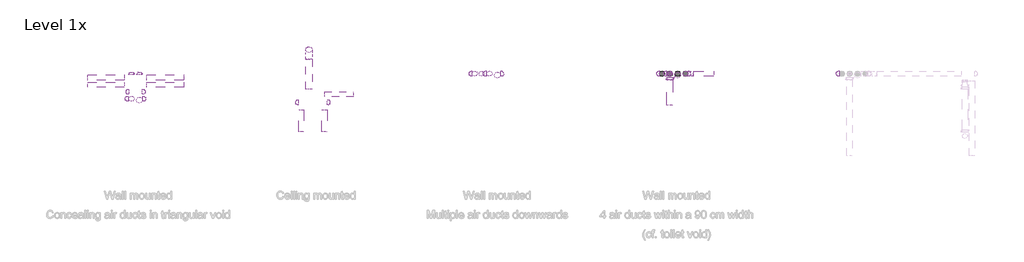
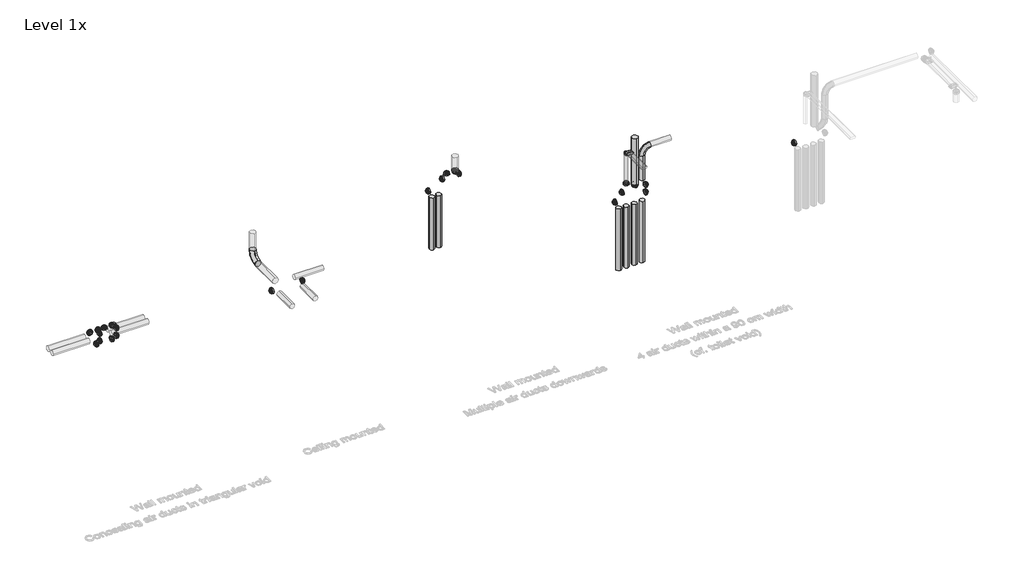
# One storey, part 1 of 7: 29 duct fittings, 21 duct segments, 2 dampers.
"""IFC4 building model written with IfcOpenShell, lengths in millimetres."""

from ifc_helpers import new_model, si_unit, point, frame, frame_2d, origin, place, context, project, spatial, polyline, circle_curve, trimmed, segment, composite_curve, outline, extrude, transform, mapped, element, save
from components import damper_135x55_quick_bracket_1c072f0f, duct_fitting_cf8d5976, duct_fitting_135x55_flat_15a27078, duct_fitting_80_1f0880ae, duct_fitting_80_125_7c03a684, duct_fitting_80_125_58550554, m_round_elbow_1_5_d_eb77d9a7, m_round_elbow_1_5_d_730bacfd

model = new_model("IFC4")

# Units and contexts
model_context = context("Model", 3, world=origin())
ifc_project = project(units=[si_unit("LENGTHUNIT", "METRE", prefix="MILLI")], contexts=[model_context])

# Site, building, storey
site = spatial("IfcSite", under=ifc_project)
building = spatial("IfcBuilding", under=site)
storey = spatial("IfcBuildingStorey", under=building, Name="Level 1x", Elevation=0.0)

# Dampers
placement = place(None, origin())
damper_135x55_quick_bracket_shape = damper_135x55_quick_bracket_1c072f0f(model_context)
element("IfcDamper", 1, ObjectType="VE_Bracket_MEPcontent_Renson_Easyflex_Quick_BE-EN_CP Shared : 135x55 Quick Bracket", at=placement, inside=storey, context=model_context, shape_type="MappedRepresentation", body=[
    mapped(damper_135x55_quick_bracket_shape, transform((-2232.0340432, 3197.2435118, 2663.45), x_axis=(1.0, 0.0, 0.0), y_axis=(0.0, 1.0, 0.0), z_axis=(0.0, 0.0, 1.0))),
])
element("IfcDamper", 2, ObjectType="VE_Bracket_MEPcontent_Renson_Easyflex_Quick_BE-EN_CP Shared : 135x55 Quick Bracket", at=placement, inside=storey, context=model_context, shape_type="MappedRepresentation", body=[
    mapped(damper_135x55_quick_bracket_shape, transform((-2232.0340432, 3197.2435118, 2603.05), x_axis=(-1.0, 0.0, 0.0), y_axis=(0.0, 1.0, 0.0), z_axis=(0.0, 0.0, -1.0))),
])

# Duct fittings
duct_fitting_shape = duct_fitting_cf8d5976(model_context)
element("IfcDuctFitting", 3, ObjectType="Renson_Healthbox 3_Reducer_Round_Exhaust Adapter 125-150 : 125-150", at=placement, inside=storey, context=model_context, shape_type="MappedRepresentation", body=[
    mapped(duct_fitting_shape, transform((-2043.0340432, 3282.2435118, 1680.0), x_axis=(0.0, 0.0, 1.000000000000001), y_axis=(-1.0000000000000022, 0.0, 0.0), z_axis=(0.0, -1.000000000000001, 0.0))),
])
element("IfcDuctFitting", 4, ObjectType="Renson_Healthbox 3_Reducer_Round_Exhaust Adapter 125-150 : 125-150", at=placement, inside=storey, context=model_context, shape_type="MappedRepresentation", body=[
    mapped(duct_fitting_shape, transform((-6363.9079005, 3282.2435118, 3534.2083182), x_axis=(0.0, 0.0, 1.000000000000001), y_axis=(-1.0000000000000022, 0.0, 0.0), z_axis=(0.0, -1.000000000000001, 0.0))),
])
element("IfcDuctFitting", 5, ObjectType="Renson_Healthbox 3_Reducer_Round_Exhaust Adapter 125-150 : 125-150", at=placement, inside=storey, context=model_context, shape_type="MappedRepresentation", body=[
    mapped(duct_fitting_shape, transform((-14940.8881115, 2682.2435118, 2973.7209715), x_axis=(0.0, 0.0, 1.000000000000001), y_axis=(-1.0000000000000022, 0.0, 0.0), z_axis=(0.0, -1.000000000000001, 0.0))),
])
duct_fitting_135x55_flat_shape = duct_fitting_135x55_flat_15a27078(model_context)
element("IfcDuctFitting", 6, ObjectType="VE_Coupling_Oval_MEPcontent_Renson_Easyflex_Flat_BE-EN_CP Shared : 135x55 Flat", at=placement, inside=storey, context=model_context, shape_type="MappedRepresentation", body=[
    mapped(duct_fitting_135x55_flat_shape, transform((-2232.0340432, 3197.2435118, 2633.25), x_axis=(0.0, 1.0, 0.0), y_axis=(-1.0, 0.0, 0.0), z_axis=(0.0, 0.0, 1.0))),
])
duct_fitting_80_shape = duct_fitting_80_1f0880ae(model_context)
element("IfcDuctFitting", 7, ObjectType="VE_Coupling_Round_MEPcontent_Renson_Easyflex_BE-EN_CP Shared : 80", at=placement, inside=storey, context=model_context, shape_type="MappedRepresentation", body=[
    mapped(duct_fitting_80_shape, transform((-2232.0340432, 3317.2435118, 2553.25), x_axis=(0.0, 0.0, -1.000000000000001), y_axis=(1.0000000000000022, 0.0, 0.0), z_axis=(0.0, -1.000000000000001, 0.0))),
])
duct_fitting_80_125_shape = duct_fitting_80_125_7c03a684(model_context)
element("IfcDuctFitting", 8, ObjectType="Renson_Healthbox 3_Reducer_Round_Adapter 80-125 : 80-125", at=placement, inside=storey, context=model_context, shape_type="MappedRepresentation", body=[
    mapped(duct_fitting_80_125_shape, transform((-2314.0340432, 3317.2435118, 1597.0), x_axis=(-1.0, 0.0, 0.0), y_axis=(0.0, 0.0, -1.0), z_axis=(0.0, -1.0, 0.0))),
])
element("IfcDuctFitting", 9, ObjectType="Renson_Healthbox 3_Reducer_Round_Adapter 80-125 : 80-125", at=placement, inside=storey, context=model_context, shape_type="MappedRepresentation", body=[
    mapped(duct_fitting_80_125_shape, transform((-1790.6610432, 3317.2435118, 1407.0), x_axis=(1.0000000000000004, 0.0, 0.0), y_axis=(0.0, 0.0, 1.0000000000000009), z_axis=(0.0, -1.0000000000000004, 0.0))),
])
element("IfcDuctFitting", 10, ObjectType="Renson_Healthbox 3_Reducer_Round_Adapter 80-125 : 80-125", at=placement, inside=storey, context=model_context, shape_type="MappedRepresentation", body=[
    mapped(duct_fitting_80_125_shape, transform((-2482.9070432, 3317.2435118, 1407.0), x_axis=(-1.0, 0.0, 0.0), y_axis=(0.0, 0.0, -1.0), z_axis=(0.0, -1.0, 0.0))),
])
element("IfcDuctFitting", 11, ObjectType="Renson_Healthbox 3_Reducer_Round_Adapter 80-125 : 80-125", at=placement, inside=storey, context=model_context, shape_type="MappedRepresentation", body=[
    mapped(duct_fitting_80_125_shape, transform((-1791.5177485, 3317.2435118, 1597.0), x_axis=(1.0, 0.0, 0.0), y_axis=(0.0, 0.0, 1.0), z_axis=(0.0, -1.0, 0.0))),
])
element("IfcDuctFitting", 12, ObjectType="Renson_Healthbox 3_Reducer_Round_Adapter 80-125 : 80-125", at=placement, inside=storey, context=model_context, shape_type="MappedRepresentation", body=[
    mapped(duct_fitting_80_125_shape, transform((-2232.0340432, 3317.2435118, 1767.0), x_axis=(0.0, 0.0, 1.0), y_axis=(-1.0, 0.0, 0.0), z_axis=(0.0, -1.0, 0.0))),
])
element("IfcDuctFitting", 13, ObjectType="Renson_Healthbox 3_Reducer_Round_Adapter 80-125 : 80-125", at=placement, inside=storey, context=model_context, shape_type="MappedRepresentation", body=[
    mapped(duct_fitting_80_125_shape, transform((-6634.9079005, 3317.2435118, 3451.2083182), x_axis=(-1.0, 0.0, 0.0), y_axis=(0.0, 0.0, -1.0), z_axis=(0.0, -1.0, 0.0))),
])
element("IfcDuctFitting", 14, ObjectType="Renson_Healthbox 3_Reducer_Round_Adapter 80-125 : 80-125", at=placement, inside=storey, context=model_context, shape_type="MappedRepresentation", body=[
    mapped(duct_fitting_80_125_shape, transform((-6552.9079005, 3317.2435118, 3533.2083182), x_axis=(0.0, 0.0, 1.0), y_axis=(-1.0, 0.0, 0.0), z_axis=(0.0, -1.0, 0.0))),
])
element("IfcDuctFitting", 15, ObjectType="Renson_Healthbox 3_Reducer_Round_Adapter 80-125 : 80-125", at=placement, inside=storey, context=model_context, shape_type="MappedRepresentation", body=[
    mapped(duct_fitting_80_125_shape, transform((-11130.5745462, 2628.8779926, 2596.7), x_axis=(-1.0, 0.0, 0.0), y_axis=(0.0, 1.0, 0.0), z_axis=(0.0, 0.0, -1.0))),
])
element("IfcDuctFitting", 16, ObjectType="Renson_Healthbox 3_Reducer_Round_Adapter 80-125 : 80-125", at=placement, inside=storey, context=model_context, shape_type="MappedRepresentation", body=[
    mapped(duct_fitting_80_125_shape, transform((-6280.9079005, 3317.2435118, 3451.2083182), x_axis=(1.0, 0.0, 0.0), y_axis=(0.0, 0.0, 1.0), z_axis=(0.0, -1.0, 0.0))),
])
element("IfcDuctFitting", 17, ObjectType="Renson_Healthbox 3_Reducer_Round_Adapter 80-125 : 80-125", at=placement, inside=storey, context=model_context, shape_type="MappedRepresentation", body=[
    mapped(duct_fitting_80_125_shape, transform((-6972.49221, 3317.2435118, 3261.3063466), x_axis=(-1.0, 0.0, 0.0), y_axis=(0.0, 0.0, -1.0), z_axis=(0.0, -1.0, 0.0))),
])
element("IfcDuctFitting", 18, ObjectType="Renson_Healthbox 3_Reducer_Round_Adapter 80-125 : 80-125", at=placement, inside=storey, context=model_context, shape_type="MappedRepresentation", body=[
    mapped(duct_fitting_80_125_shape, transform((-10440.016366, 2629.8779926, 2596.7), x_axis=(1.0, 0.0, 0.0), y_axis=(0.0, -1.0, 0.0), z_axis=(0.0, 0.0, -1.0))),
])
element("IfcDuctFitting", 19, ObjectType="Renson_Healthbox 3_Reducer_Round_Adapter 80-125 : 80-125", at=placement, inside=storey, context=model_context, shape_type="MappedRepresentation", body=[
    mapped(duct_fitting_80_125_shape, transform((1827.0929568, 3317.2435118, 1407.0), x_axis=(-1.0, 0.0, 0.0), y_axis=(0.0, 0.0, -1.0), z_axis=(0.0, -1.0, 0.0))),
])
element("IfcDuctFitting", 20, ObjectType="Renson_Healthbox 3_Reducer_Round_Adapter 80-125 : 80-125", at=placement, inside=storey, context=model_context, shape_type="MappedRepresentation", body=[
    mapped(duct_fitting_80_125_shape, transform((-15211.8881115, 2717.2435118, 2890.7209715), x_axis=(-1.0, 0.0, 0.0), y_axis=(0.0, 0.0, -1.0), z_axis=(0.0, -1.0, 0.0))),
])
element("IfcDuctFitting", 21, ObjectType="Renson_Healthbox 3_Reducer_Round_Adapter 80-125 : 80-125", at=placement, inside=storey, context=model_context, shape_type="MappedRepresentation", body=[
    mapped(duct_fitting_80_125_shape, transform((-15129.8881115, 2717.2435118, 2972.7209715), x_axis=(0.0, 0.0, 1.0), y_axis=(-1.0, 0.0, 0.0), z_axis=(0.0, -1.0, 0.0))),
])
element("IfcDuctFitting", 22, ObjectType="Renson_Healthbox 3_Reducer_Round_Adapter 80-125 : 80-125", at=placement, inside=storey, context=model_context, shape_type="MappedRepresentation", body=[
    mapped(duct_fitting_80_125_shape, transform((-14857.8881115, 2717.2435118, 2890.7209715), x_axis=(1.0, 0.0, 0.0), y_axis=(0.0, 0.0, 1.0), z_axis=(0.0, -1.0, 0.0))),
])
element("IfcDuctFitting", 23, ObjectType="Renson_Healthbox 3_Reducer_Round_Adapter 80-125 : 80-125", at=placement, inside=storey, context=model_context, shape_type="MappedRepresentation", body=[
    mapped(duct_fitting_80_125_shape, transform((-14857.8881115, 2717.2435118, 2700.7209715), x_axis=(1.0, 0.0, 0.0), y_axis=(0.0, 0.0, 1.0), z_axis=(0.0, -1.0, 0.0))),
])
element("IfcDuctFitting", 24, ObjectType="Renson_Healthbox 3_Reducer_Round_Adapter 80-125 : 80-125", at=placement, inside=storey, context=model_context, shape_type="MappedRepresentation", body=[
    mapped(duct_fitting_80_125_shape, transform((-15211.8881115, 2717.2435118, 2700.7209715), x_axis=(-1.0, 0.0, 0.0), y_axis=(0.0, 0.0, -1.0), z_axis=(0.0, -1.0, 0.0))),
])
element("IfcDuctFitting", 25, ObjectType="Renson_Healthbox 3_Reducer_Round_Adapter 80-125 : 80-125", at=placement, inside=storey, context=model_context, shape_type="MappedRepresentation", body=[
    mapped(duct_fitting_80_125_shape, transform((-15197.8838503, 2884.9395118, 2514.3155219), x_axis=(-1.0, 0.0, 0.0), y_axis=(0.0, -1.0, 0.0), z_axis=(0.0, 0.0, 1.0))),
])
element("IfcDuctFitting", 26, ObjectType="Renson_Healthbox 3_Reducer_Round_Adapter 80-125 : 80-125", at=placement, inside=storey, context=model_context, shape_type="MappedRepresentation", body=[
    mapped(duct_fitting_80_125_shape, transform((-15132.7588503, 3291.4936919, 2514.3155219), x_axis=(0.0, 1.0, 0.0), y_axis=(-1.0, 0.0, 0.0), z_axis=(0.0, 0.0, 1.0))),
])
duct_fitting_80_125_2_shape = duct_fitting_80_125_58550554(model_context)
element("IfcDuctFitting", 27, ObjectType="Renson_Healthbox 3_Reducer_Round_Adapter 80-125 : 80-125", at=placement, inside=storey, context=model_context, shape_type="MappedRepresentation", body=[
    mapped(duct_fitting_80_125_2_shape, transform((-14871.8923726, 2884.9395118, 2514.3155219), x_axis=(1.0, 0.0, 0.0), y_axis=(0.0, 1.0, 0.0), z_axis=(0.0, 0.0, 1.0))),
])
element("IfcDuctFitting", 28, ObjectType="Renson_Healthbox 3_Reducer_Round_Adapter 80-125 : 80-125", at=placement, inside=storey, context=model_context, shape_type="MappedRepresentation", body=[
    mapped(duct_fitting_80_125_2_shape, transform((-14937.0173726, 3291.4936919, 2514.3155219), x_axis=(0.0, 1.0, 0.0), y_axis=(-1.0, 0.0, 0.0), z_axis=(0.0, 0.0, 1.0))),
])
m_round_elbow_1_5_d_shape = m_round_elbow_1_5_d_eb77d9a7(model_context)
element("IfcDuctFitting", 29, ObjectType="M_Round Elbow : 1.5 D", at=placement, inside=storey, context=model_context, shape_type="MappedRepresentation", body=[
    mapped(m_round_elbow_1_5_d_shape, transform((-1856.6407485, 3317.2435118, 2577.625), x_axis=(0.0, 0.0, 1.0), y_axis=(1.0, 0.0, 0.0), z_axis=(0.0, 1.0, 0.0))),
])
m_round_elbow_1_5_d_2_shape = m_round_elbow_1_5_d_730bacfd(model_context)
element("IfcDuctFitting", 30, ObjectType="M_Round Elbow : 1.5 D", at=placement, inside=storey, context=model_context, shape_type="MappedRepresentation", body=[
    mapped(m_round_elbow_1_5_d_2_shape, transform((-10878.0454561, 3892.6729926, 2567.5232919), x_axis=(0.0, 1.0, 0.0), y_axis=(0.0, 0.0, 1.0), z_axis=(1.0, 0.0, 0.0))),
])
element("IfcDuctFitting", 31, ObjectType="M_Round Elbow : 1.5 D", at=placement, inside=storey, context=model_context, shape_type="MappedRepresentation", body=[
    mapped(m_round_elbow_1_5_d_2_shape, transform((-10879.5454561, 3892.6729926, 2567.5232919), x_axis=(0.0, 1.0, 0.0), y_axis=(0.0, 0.0, 1.0), z_axis=(1.0, 0.0, 0.0))),
])

# Duct segments
element("IfcDuctSegment", 32, ObjectType="Easyflex Oval", at=placement, inside=storey, context=model_context, shape_type="SweptSolid", body=[
    extrude(outline(composite_curve([segment(trimmed(circle_curve(frame_2d((2633.25, -2272.0340432)), 27.5), [point((2660.75, -2272.0340432))], [point((2633.25, -2299.5340432))], False, "CARTESIAN"), True, "CONTINUOUS"), segment(trimmed(circle_curve(frame_2d((2633.25, -2272.0340432)), 27.5), [point((2633.25, -2299.5340432))], [point((2605.75, -2272.0340432))], False, "CARTESIAN"), True, "CONTINUOUS"), segment(polyline([(2605.75, -2272.0340432), (2605.75, -2192.0340432)]), True, "CONTINUOUS"), segment(trimmed(circle_curve(frame_2d((2633.25, -2192.0340432)), 27.5), [point((2605.75, -2192.0340432))], [point((2633.25, -2164.5340432))], False, "CARTESIAN"), True, "CONTINUOUS"), segment(trimmed(circle_curve(frame_2d((2633.25, -2192.0340432)), 27.5), [point((2633.25, -2164.5340432))], [point((2660.75, -2192.0340432))], False, "CARTESIAN"), True, "CONTINUOUS"), segment(polyline([(2660.75, -2192.0340432), (2660.75, -2272.0340432)]), True, "CONTINUOUS")], self_intersect=False)), frame((0.0, 2558.7818468, 0.0), z_axis=(0.0, 1.0, 0.0), x_axis=(0.0, 0.0, 1.0)), (0.0, 0.0, 1.0), 623.4616649),
])
element("IfcDuctSegment", 33, ObjectType="Riser pipe", at=placement, inside=storey, context=model_context, shape_type="SweptSolid", body=[
    extrude(outline(composite_curve([segment(trimmed(circle_curve(frame_2d((-2232.0340432, 3317.2435118)), 40.0), [point((-2192.0340432, 3317.2435118))], [point((-2232.0340432, 3277.2435118))], False, "CARTESIAN"), True, "CONTINUOUS"), segment(trimmed(circle_curve(frame_2d((-2232.0340432, 3317.2435118)), 40.0), [point((-2232.0340432, 3277.2435118))], [point((-2272.0340432, 3317.2435118))], False, "CARTESIAN"), True, "CONTINUOUS"), segment(trimmed(circle_curve(frame_2d((-2232.0340432, 3317.2435118)), 40.0), [point((-2272.0340432, 3317.2435118))], [point((-2232.0340432, 3357.2435118))], False, "CARTESIAN"), True, "CONTINUOUS"), segment(trimmed(circle_curve(frame_2d((-2232.0340432, 3317.2435118)), 40.0), [point((-2232.0340432, 3357.2435118))], [point((-2192.0340432, 3317.2435118))], False, "CARTESIAN"), True, "CONTINUOUS")], self_intersect=False)), frame((0.0, 0.0, 1809.0), z_axis=(0.0, 0.0, 1.0), x_axis=(1.0, 0.0, 0.0)), (0.0, 0.0, 1.0), 743.0),
])
element("IfcDuctSegment", 34, ObjectType="Riser pipe", at=placement, inside=storey, context=model_context, shape_type="SweptSolid", body=[
    extrude(outline(composite_curve([segment(trimmed(circle_curve(frame_2d((-2043.0340432, 3282.2435118)), 75.0), [point((-1968.0340432, 3282.2435118))], [point((-2043.0340432, 3207.2435118))], False, "CARTESIAN"), True, "CONTINUOUS"), segment(trimmed(circle_curve(frame_2d((-2043.0340432, 3282.2435118)), 75.0), [point((-2043.0340432, 3207.2435118))], [point((-2118.0340432, 3282.2435118))], False, "CARTESIAN"), True, "CONTINUOUS"), segment(trimmed(circle_curve(frame_2d((-2043.0340432, 3282.2435118)), 75.0), [point((-2118.0340432, 3282.2435118))], [point((-2043.0340432, 3357.2435118))], False, "CARTESIAN"), True, "CONTINUOUS"), segment(trimmed(circle_curve(frame_2d((-2043.0340432, 3282.2435118)), 75.0), [point((-2043.0340432, 3357.2435118))], [point((-1968.0340432, 3282.2435118))], False, "CARTESIAN"), True, "CONTINUOUS")], self_intersect=False)), frame((0.0, 0.0, 1719.795), z_axis=(0.0, 0.0, 1.0), x_axis=(1.0, 0.0, 0.0)), (0.0, 0.0, 1.0), 1200.0),
])
element("IfcDuctSegment", 35, ObjectType="Riser pipe", at=placement, inside=storey, context=model_context, shape_type="SweptSolid", body=[
    extrude(outline(composite_curve([segment(trimmed(circle_curve(frame_2d((-1856.6407485, 3317.2435118)), 62.5), [point((-1794.1407485, 3317.2435118))], [point((-1856.6407485, 3254.7435118))], False, "CARTESIAN"), True, "CONTINUOUS"), segment(trimmed(circle_curve(frame_2d((-1856.6407485, 3317.2435118)), 62.5), [point((-1856.6407485, 3254.7435118))], [point((-1919.1407485, 3317.2435118))], False, "CARTESIAN"), True, "CONTINUOUS"), segment(trimmed(circle_curve(frame_2d((-1856.6407485, 3317.2435118)), 62.5), [point((-1919.1407485, 3317.2435118))], [point((-1856.6407485, 3379.7435118))], False, "CARTESIAN"), True, "CONTINUOUS"), segment(trimmed(circle_curve(frame_2d((-1856.6407485, 3317.2435118)), 62.5), [point((-1856.6407485, 3379.7435118))], [point((-1794.1407485, 3317.2435118))], False, "CARTESIAN"), True, "CONTINUOUS")], self_intersect=False)), frame((0.0, 0.0, 1768.625), z_axis=(0.0, 0.0, 1.0), x_axis=(1.0, 0.0, 0.0)), (0.0, 0.0, 1.0), 621.5),
])
element("IfcDuctSegment", 36, ObjectType="Riser pipe", at=placement, inside=storey, context=model_context, shape_type="SweptSolid", body=[
    extrude(outline(composite_curve([segment(trimmed(circle_curve(frame_2d((3317.2435118, 2577.625)), 62.5), [point((3254.7435118, 2577.625))], [point((3317.2435118, 2640.125))], False, "CARTESIAN"), True, "CONTINUOUS"), segment(trimmed(circle_curve(frame_2d((3317.2435118, 2577.625)), 62.5), [point((3317.2435118, 2640.125))], [point((3379.7435118, 2577.625))], False, "CARTESIAN"), True, "CONTINUOUS"), segment(trimmed(circle_curve(frame_2d((3317.2435118, 2577.625)), 62.5), [point((3379.7435118, 2577.625))], [point((3317.2435118, 2515.125))], False, "CARTESIAN"), True, "CONTINUOUS"), segment(trimmed(circle_curve(frame_2d((3317.2435118, 2577.625)), 62.5), [point((3317.2435118, 2515.125))], [point((3254.7435118, 2577.625))], False, "CARTESIAN"), True, "CONTINUOUS")], self_intersect=False)), frame((-1669.1407485, 0.0, 0.0), z_axis=(1.0, 0.0, 0.0), x_axis=(0.0, 1.0, 0.0)), (0.0, 0.0, 1.0), 492.5),
])
element("IfcDuctSegment", 37, ObjectType="Riser pipe", at=placement, inside=storey, context=model_context, shape_type="SweptSolid", body=[
    extrude(outline(composite_curve([segment(trimmed(circle_curve(frame_2d((-2417.7840432, 3317.2435118)), 62.5), [point((-2480.2840432, 3317.2435118))], [point((-2417.7840432, 3379.7435118))], False, "CARTESIAN"), True, "CONTINUOUS"), segment(trimmed(circle_curve(frame_2d((-2417.7840432, 3317.2435118)), 62.5), [point((-2417.7840432, 3379.7435118))], [point((-2355.2840432, 3317.2435118))], False, "CARTESIAN"), True, "CONTINUOUS"), segment(trimmed(circle_curve(frame_2d((-2417.7840432, 3317.2435118)), 62.5), [point((-2355.2840432, 3317.2435118))], [point((-2417.7840432, 3254.7435118))], False, "CARTESIAN"), True, "CONTINUOUS"), segment(trimmed(circle_curve(frame_2d((-2417.7840432, 3317.2435118)), 62.5), [point((-2417.7840432, 3254.7435118))], [point((-2480.2840432, 3317.2435118))], False, "CARTESIAN"), True, "CONTINUOUS")], self_intersect=False)), frame((0.0, 0.0, -324.625), z_axis=(0.0, 0.0, 1.0), x_axis=(1.0, 0.0, 0.0)), (0.0, 0.0, 1.0), 1560.0),
])
element("IfcDuctSegment", 38, ObjectType="Riser pipe", at=placement, inside=storey, context=model_context, shape_type="SweptSolid", body=[
    extrude(outline(composite_curve([segment(trimmed(circle_curve(frame_2d((-2232.0340432, 3317.2435118)), 62.5), [point((-2294.5340432, 3317.2435118))], [point((-2232.0340432, 3379.7435118))], False, "CARTESIAN"), True, "CONTINUOUS"), segment(trimmed(circle_curve(frame_2d((-2232.0340432, 3317.2435118)), 62.5), [point((-2232.0340432, 3379.7435118))], [point((-2169.5340432, 3317.2435118))], False, "CARTESIAN"), True, "CONTINUOUS"), segment(trimmed(circle_curve(frame_2d((-2232.0340432, 3317.2435118)), 62.5), [point((-2169.5340432, 3317.2435118))], [point((-2232.0340432, 3254.7435118))], False, "CARTESIAN"), True, "CONTINUOUS"), segment(trimmed(circle_curve(frame_2d((-2232.0340432, 3317.2435118)), 62.5), [point((-2232.0340432, 3254.7435118))], [point((-2294.5340432, 3317.2435118))], False, "CARTESIAN"), True, "CONTINUOUS")], self_intersect=False)), frame((0.0, 0.0, -324.625), z_axis=(0.0, 0.0, 1.0), x_axis=(1.0, 0.0, 0.0)), (0.0, 0.0, 1.0), 1542.625),
])
element("IfcDuctSegment", 39, ObjectType="Riser pipe", at=placement, inside=storey, context=model_context, shape_type="SweptSolid", body=[
    extrude(outline(composite_curve([segment(trimmed(circle_curve(frame_2d((-2042.0340432, 3317.2435118)), 62.5), [point((-2104.5340432, 3317.2435118))], [point((-2042.0340432, 3379.7435118))], False, "CARTESIAN"), True, "CONTINUOUS"), segment(trimmed(circle_curve(frame_2d((-2042.0340432, 3317.2435118)), 62.5), [point((-2042.0340432, 3379.7435118))], [point((-1979.5340432, 3317.2435118))], False, "CARTESIAN"), True, "CONTINUOUS"), segment(trimmed(circle_curve(frame_2d((-2042.0340432, 3317.2435118)), 62.5), [point((-1979.5340432, 3317.2435118))], [point((-2042.0340432, 3254.7435118))], False, "CARTESIAN"), True, "CONTINUOUS"), segment(trimmed(circle_curve(frame_2d((-2042.0340432, 3317.2435118)), 62.5), [point((-2042.0340432, 3254.7435118))], [point((-2104.5340432, 3317.2435118))], False, "CARTESIAN"), True, "CONTINUOUS")], self_intersect=False)), frame((0.0, 0.0, -322.0), z_axis=(0.0, 0.0, 1.0), x_axis=(1.0, 0.0, 0.0)), (0.0, 0.0, 1.0), 1540.0),
])
element("IfcDuctSegment", 40, ObjectType="Riser pipe", at=placement, inside=storey, context=model_context, shape_type="SweptSolid", body=[
    extrude(outline(composite_curve([segment(trimmed(circle_curve(frame_2d((-1855.7840432, 3317.2435118)), 62.5), [point((-1918.2840432, 3317.2435118))], [point((-1855.7840432, 3379.7435118))], False, "CARTESIAN"), True, "CONTINUOUS"), segment(trimmed(circle_curve(frame_2d((-1855.7840432, 3317.2435118)), 62.5), [point((-1855.7840432, 3379.7435118))], [point((-1793.2840432, 3317.2435118))], False, "CARTESIAN"), True, "CONTINUOUS"), segment(trimmed(circle_curve(frame_2d((-1855.7840432, 3317.2435118)), 62.5), [point((-1793.2840432, 3317.2435118))], [point((-1855.7840432, 3254.7435118))], False, "CARTESIAN"), True, "CONTINUOUS"), segment(trimmed(circle_curve(frame_2d((-1855.7840432, 3317.2435118)), 62.5), [point((-1855.7840432, 3254.7435118))], [point((-1918.2840432, 3317.2435118))], False, "CARTESIAN"), True, "CONTINUOUS")], self_intersect=False)), frame((0.0, 0.0, -324.625), z_axis=(0.0, 0.0, 1.0), x_axis=(1.0, 0.0, 0.0)), (0.0, 0.0, 1.0), 1560.0),
])
element("IfcDuctSegment", 41, ObjectType="Riser pipe", at=placement, inside=storey, context=model_context, shape_type="SweptSolid", body=[
    extrude(outline(composite_curve([segment(trimmed(circle_curve(frame_2d((-6363.9079005, 3282.2435118)), 75.0), [point((-6288.9079005, 3282.2435118))], [point((-6363.9079005, 3207.2435118))], False, "CARTESIAN"), True, "CONTINUOUS"), segment(trimmed(circle_curve(frame_2d((-6363.9079005, 3282.2435118)), 75.0), [point((-6363.9079005, 3207.2435118))], [point((-6438.9079005, 3282.2435118))], False, "CARTESIAN"), True, "CONTINUOUS"), segment(trimmed(circle_curve(frame_2d((-6363.9079005, 3282.2435118)), 75.0), [point((-6438.9079005, 3282.2435118))], [point((-6363.9079005, 3357.2435118))], False, "CARTESIAN"), True, "CONTINUOUS"), segment(trimmed(circle_curve(frame_2d((-6363.9079005, 3282.2435118)), 75.0), [point((-6363.9079005, 3357.2435118))], [point((-6288.9079005, 3282.2435118))], False, "CARTESIAN"), True, "CONTINUOUS")], self_intersect=False)), frame((0.0, 0.0, 3574.0033182), z_axis=(0.0, 0.0, 1.0), x_axis=(1.0, 0.0, 0.0)), (0.0, 0.0, 1.0), 380.0),
])
element("IfcDuctSegment", 42, ObjectType="Riser pipe", at=placement, inside=storey, context=model_context, shape_type="SweptSolid", body=[
    extrude(outline(composite_curve([segment(trimmed(circle_curve(frame_2d((2821.8055358, 2595.9019715)), 62.5), [point((2759.3055358, 2595.9019715))], [point((2821.8055358, 2658.4019715))], False, "CARTESIAN"), True, "CONTINUOUS"), segment(trimmed(circle_curve(frame_2d((2821.8055358, 2595.9019715)), 62.5), [point((2821.8055358, 2658.4019715))], [point((2884.3055358, 2595.9019715))], False, "CARTESIAN"), True, "CONTINUOUS"), segment(trimmed(circle_curve(frame_2d((2821.8055358, 2595.9019715)), 62.5), [point((2884.3055358, 2595.9019715))], [point((2821.8055358, 2533.4019715))], False, "CARTESIAN"), True, "CONTINUOUS"), segment(trimmed(circle_curve(frame_2d((2821.8055358, 2595.9019715)), 62.5), [point((2821.8055358, 2533.4019715))], [point((2759.3055358, 2595.9019715))], False, "CARTESIAN"), True, "CONTINUOUS")], self_intersect=False)), frame((-10501.5454561, 0.0, 0.0), z_axis=(1.0, 0.0, 0.0), x_axis=(0.0, 1.0, 0.0)), (0.0, 0.0, 1.0), 687.5),
])
element("IfcDuctSegment", 43, ObjectType="Riser pipe", at=placement, inside=storey, context=model_context, shape_type="SweptSolid", body=[
    extrude(outline(composite_curve([segment(trimmed(circle_curve(frame_2d((-6739.99621, 3317.2435118)), 62.5), [point((-6802.49621, 3317.2435118))], [point((-6739.99621, 3379.7435118))], False, "CARTESIAN"), True, "CONTINUOUS"), segment(trimmed(circle_curve(frame_2d((-6739.99621, 3317.2435118)), 62.5), [point((-6739.99621, 3379.7435118))], [point((-6677.49621, 3317.2435118))], False, "CARTESIAN"), True, "CONTINUOUS"), segment(trimmed(circle_curve(frame_2d((-6739.99621, 3317.2435118)), 62.5), [point((-6677.49621, 3317.2435118))], [point((-6739.99621, 3254.7435118))], False, "CARTESIAN"), True, "CONTINUOUS"), segment(trimmed(circle_curve(frame_2d((-6739.99621, 3317.2435118)), 62.5), [point((-6739.99621, 3254.7435118))], [point((-6802.49621, 3317.2435118))], False, "CARTESIAN"), True, "CONTINUOUS")], self_intersect=False)), frame((0.0, 0.0, 1772.3063466), z_axis=(0.0, 0.0, 1.0), x_axis=(1.0, 0.0, 0.0)), (0.0, 0.0, 1.0), 1317.375),
])
element("IfcDuctSegment", 44, ObjectType="Riser pipe", at=placement, inside=storey, context=model_context, shape_type="SweptSolid", body=[
    extrude(outline(composite_curve([segment(trimmed(circle_curve(frame_2d((-6907.36921, 3317.2435118)), 62.5), [point((-6969.86921, 3317.2435118))], [point((-6907.36921, 3379.7435118))], False, "CARTESIAN"), True, "CONTINUOUS"), segment(trimmed(circle_curve(frame_2d((-6907.36921, 3317.2435118)), 62.5), [point((-6907.36921, 3379.7435118))], [point((-6844.86921, 3317.2435118))], False, "CARTESIAN"), True, "CONTINUOUS"), segment(trimmed(circle_curve(frame_2d((-6907.36921, 3317.2435118)), 62.5), [point((-6844.86921, 3317.2435118))], [point((-6907.36921, 3254.7435118))], False, "CARTESIAN"), True, "CONTINUOUS"), segment(trimmed(circle_curve(frame_2d((-6907.36921, 3317.2435118)), 62.5), [point((-6907.36921, 3254.7435118))], [point((-6969.86921, 3317.2435118))], False, "CARTESIAN"), True, "CONTINUOUS")], self_intersect=False)), frame((0.0, 0.0, 1772.3063466), z_axis=(0.0, 0.0, 1.0), x_axis=(1.0, 0.0, 0.0)), (0.0, 0.0, 1.0), 1317.375),
])
element("IfcDuctSegment", 45, ObjectType="Taps", at=placement, inside=storey, context=model_context, shape_type="SweptSolid", body=[
    extrude(outline(composite_curve([segment(trimmed(circle_curve(frame_2d((2560.9019715, -10879.5454561)), 75.0), [point((2560.9019715, -10804.5454561))], [point((2635.9019715, -10879.5454561))], False, "CARTESIAN"), True, "CONTINUOUS"), segment(trimmed(circle_curve(frame_2d((2560.9019715, -10879.5454561)), 75.0), [point((2635.9019715, -10879.5454561))], [point((2560.9019715, -10954.5454561))], False, "CARTESIAN"), True, "CONTINUOUS"), segment(trimmed(circle_curve(frame_2d((2560.9019715, -10879.5454561)), 75.0), [point((2560.9019715, -10954.5454561))], [point((2485.9019715, -10879.5454561))], False, "CARTESIAN"), True, "CONTINUOUS"), segment(trimmed(circle_curve(frame_2d((2560.9019715, -10879.5454561)), 75.0), [point((2485.9019715, -10879.5454561))], [point((2560.9019715, -10804.5454561))], False, "CARTESIAN"), True, "CONTINUOUS")], self_intersect=False)), frame((0.0, 2944.6005358, 0.0), z_axis=(0.0, 1.0, 0.0), x_axis=(0.0, 0.0, 1.0)), (0.0, 0.0, 1.0), 723.0724567),
])
element("IfcDuctSegment", 46, ObjectType="Taps", at=placement, inside=storey, context=model_context, shape_type="SweptSolid", body=[
    extrude(outline(composite_curve([segment(trimmed(circle_curve(frame_2d((-10878.0454561, 3892.6729926)), 75.0), [point((-10803.0454561, 3892.6729926))], [point((-10878.0454561, 3817.6729926))], False, "CARTESIAN"), True, "CONTINUOUS"), segment(trimmed(circle_curve(frame_2d((-10878.0454561, 3892.6729926)), 75.0), [point((-10878.0454561, 3817.6729926))], [point((-10953.0454561, 3892.6729926))], False, "CARTESIAN"), True, "CONTINUOUS"), segment(trimmed(circle_curve(frame_2d((-10878.0454561, 3892.6729926)), 75.0), [point((-10953.0454561, 3892.6729926))], [point((-10878.0454561, 3967.6729926))], False, "CARTESIAN"), True, "CONTINUOUS"), segment(trimmed(circle_curve(frame_2d((-10878.0454561, 3892.6729926)), 75.0), [point((-10878.0454561, 3967.6729926))], [point((-10803.0454561, 3892.6729926))], False, "CARTESIAN"), True, "CONTINUOUS")], self_intersect=False)), frame((0.0, 0.0, 2792.5232919), z_axis=(0.0, 0.0, 1.0), x_axis=(1.0, 0.0, 0.0)), (0.0, 0.0, 1.0), 429.4767081),
])
element("IfcDuctSegment", 47, ObjectType="Taps", at=placement, inside=storey, context=model_context, shape_type="SweptSolid", body=[
    extrude(outline(composite_curve([segment(trimmed(circle_curve(frame_2d((0.0, -62.5)), 62.5), [point((-62.5, -62.5))], [point((0.0, 0.0))], False, "CARTESIAN"), True, "CONTINUOUS"), segment(trimmed(circle_curve(frame_2d((0.0, -62.5)), 62.5), [point((0.0, 0.0))], [point((62.5, -62.5))], False, "CARTESIAN"), True, "CONTINUOUS"), segment(trimmed(circle_curve(frame_2d((0.0, -62.5)), 62.5), [point((62.5, -62.5))], [point((0.0, -125.0))], False, "CARTESIAN"), True, "CONTINUOUS"), segment(trimmed(circle_curve(frame_2d((0.0, -62.5)), 62.5), [point((0.0, -125.0))], [point((-62.5, -62.5))], False, "CARTESIAN"), True, "CONTINUOUS")], self_intersect=False)), frame((-16184.3827479, 3054.4686018, 2451.8), z_axis=(0.999999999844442, 0.0, 1.7638482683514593e-05), x_axis=(0.0, -1.0, 0.0)), (0.0, 0.0, 1.0), 880.0000001),
])
element("IfcDuctSegment", 48, ObjectType="Taps", at=placement, inside=storey, context=model_context, shape_type="SweptSolid", body=[
    extrude(outline(composite_curve([segment(trimmed(circle_curve(frame_2d((0.0, -62.5)), 62.5), [point((-62.5, -62.5))], [point((0.0, 0.0))], False, "CARTESIAN"), True, "CONTINUOUS"), segment(trimmed(circle_curve(frame_2d((0.0, -62.5)), 62.5), [point((0.0, 0.0))], [point((62.5, -62.5))], False, "CARTESIAN"), True, "CONTINUOUS"), segment(trimmed(circle_curve(frame_2d((0.0, -62.5)), 62.5), [point((62.5, -62.5))], [point((0.0, -125.0))], False, "CARTESIAN"), True, "CONTINUOUS"), segment(trimmed(circle_curve(frame_2d((0.0, -62.5)), 62.5), [point((0.0, -125.0))], [point((-62.5, -62.5))], False, "CARTESIAN"), True, "CONTINUOUS")], self_intersect=False)), frame((-16184.3827479, 3226.3706919, 2451.8), z_axis=(0.999999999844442, 0.0, 1.7638482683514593e-05), x_axis=(0.0, -1.0, 0.0)), (0.0, 0.0, 1.0), 880.0000001),
])
element("IfcDuctSegment", 49, ObjectType="Taps", at=placement, inside=storey, context=model_context, shape_type="SweptSolid", body=[
    extrude(outline(composite_curve([segment(trimmed(circle_curve(frame_2d((0.0, -62.5)), 62.5), [point((-62.5, -62.5))], [point((0.0, 0.0))], False, "CARTESIAN"), True, "CONTINUOUS"), segment(trimmed(circle_curve(frame_2d((0.0, -62.5)), 62.5), [point((0.0, 0.0))], [point((62.5, -62.5))], False, "CARTESIAN"), True, "CONTINUOUS"), segment(trimmed(circle_curve(frame_2d((0.0, -62.5)), 62.5), [point((62.5, -62.5))], [point((0.0, -125.0))], False, "CARTESIAN"), True, "CONTINUOUS"), segment(trimmed(circle_curve(frame_2d((0.0, -62.5)), 62.5), [point((0.0, -125.0))], [point((-62.5, -62.5))], False, "CARTESIAN"), True, "CONTINUOUS")], self_intersect=False)), frame((-13885.393475, 3054.4686018, 2451.8), z_axis=(-0.999999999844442, 0.0, 1.7638482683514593e-05), x_axis=(0.0, 1.0, 0.0)), (0.0, 0.0, 1.0), 880.0000001),
])
element("IfcDuctSegment", 50, ObjectType="Taps", at=placement, inside=storey, context=model_context, shape_type="SweptSolid", body=[
    extrude(outline(composite_curve([segment(trimmed(circle_curve(frame_2d((0.0, -62.5)), 62.5), [point((-62.5, -62.5))], [point((0.0, 0.0))], False, "CARTESIAN"), True, "CONTINUOUS"), segment(trimmed(circle_curve(frame_2d((0.0, -62.5)), 62.5), [point((0.0, 0.0))], [point((62.5, -62.5))], False, "CARTESIAN"), True, "CONTINUOUS"), segment(trimmed(circle_curve(frame_2d((0.0, -62.5)), 62.5), [point((62.5, -62.5))], [point((0.0, -125.0))], False, "CARTESIAN"), True, "CONTINUOUS"), segment(trimmed(circle_curve(frame_2d((0.0, -62.5)), 62.5), [point((0.0, -125.0))], [point((-62.5, -62.5))], False, "CARTESIAN"), True, "CONTINUOUS")], self_intersect=False)), frame((-13885.393475, 3226.3706919, 2451.8), z_axis=(-0.999999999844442, 0.0, 1.7638482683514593e-05), x_axis=(0.0, 1.0, 0.0)), (0.0, 0.0, 1.0), 880.0000001),
])
element("IfcDuctSegment", 51, ObjectType="Taps", at=placement, inside=storey, context=model_context, shape_type="SweptSolid", body=[
    extrude(outline(composite_curve([segment(trimmed(circle_curve(frame_2d((2596.7, -10505.139366)), 62.5), [point((2596.7, -10567.639366))], [point((2534.2, -10505.139366))], False, "CARTESIAN"), True, "CONTINUOUS"), segment(trimmed(circle_curve(frame_2d((2596.7, -10505.139366)), 62.5), [point((2534.2, -10505.139366))], [point((2596.7, -10442.639366))], False, "CARTESIAN"), True, "CONTINUOUS"), segment(trimmed(circle_curve(frame_2d((2596.7, -10505.139366)), 62.5), [point((2596.7, -10442.639366))], [point((2659.2, -10505.139366))], False, "CARTESIAN"), True, "CONTINUOUS"), segment(trimmed(circle_curve(frame_2d((2596.7, -10505.139366)), 62.5), [point((2659.2, -10505.139366))], [point((2596.7, -10567.639366))], False, "CARTESIAN"), True, "CONTINUOUS")], self_intersect=False)), frame((0.0, 1922.8055358, 0.0), z_axis=(0.0, 1.0, 0.0), x_axis=(0.0, 0.0, 1.0)), (0.0, 0.0, 1.0), 535.4474567),
])
element("IfcDuctSegment", 52, ObjectType="Taps", at=placement, inside=storey, context=model_context, shape_type="SweptSolid", body=[
    extrude(outline(composite_curve([segment(trimmed(circle_curve(frame_2d((2596.7, -11065.4515462)), 62.5), [point((2596.7, -11127.9515462))], [point((2534.2, -11065.4515462))], False, "CARTESIAN"), True, "CONTINUOUS"), segment(trimmed(circle_curve(frame_2d((2596.7, -11065.4515462)), 62.5), [point((2534.2, -11065.4515462))], [point((2596.7, -11002.9515462))], False, "CARTESIAN"), True, "CONTINUOUS"), segment(trimmed(circle_curve(frame_2d((2596.7, -11065.4515462)), 62.5), [point((2596.7, -11002.9515462))], [point((2659.2, -11065.4515462))], False, "CARTESIAN"), True, "CONTINUOUS"), segment(trimmed(circle_curve(frame_2d((2596.7, -11065.4515462)), 62.5), [point((2659.2, -11065.4515462))], [point((2596.7, -11127.9515462))], False, "CARTESIAN"), True, "CONTINUOUS")], self_intersect=False)), frame((0.0, 1922.8055358, 0.0), z_axis=(0.0, 1.0, 0.0), x_axis=(0.0, 0.0, 1.0)), (0.0, 0.0, 1.0), 534.4474567),
])

save(model, "model.ifc")
